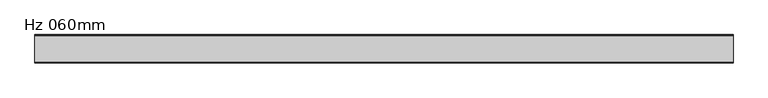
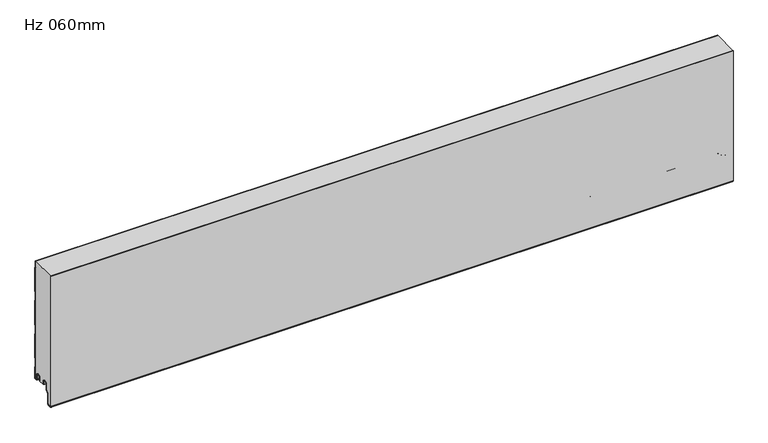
"""IFC4 building model written with IfcOpenShell, lengths in millimetres: plate geometry, KIP-MEX-KSS-1067-R19-CP-Hz-OP_SL : Hz 060mm."""

from ifc_helpers import new_model, si_unit, point, frame, frame_2d, origin, place, context, project, spatial, polyline, circle_curve, trimmed, segment, composite_curve, outline, extrude, source, transform, mapped, element, save
from ifc_brep_helpers import plane_surface, cylinder_surface, revolved_surface, advanced_brep


def hz_060mm_f28033a6(model_context):
    return source(origin(), model_context, "Body", "SolidModel", [
        advanced_brep(
        [(-740.0, -17.0015159, 2.0313088), (-740.0, -18.0015191, 1.0313116), (-740.0, -19.0015105, 2.0313088), (-740.0, -19.0015105, 6.0315125), (-740.0, -18.0015159, 6.0315125), (-740.0, -18.0015159, 8.7237223), (-740.0, -14.7015202, 12.023718), (-740.0, -10.301529, 12.023718), (-740.0, -7.0015335, 8.7237225), (-740.0, -7.0015335, -1.6962564), (-740.0, -5.2315393, -3.4662506), (-740.0, -0.9999916, -3.4662506), (-740.0, -0.9999916, 21.034026), (-740.0, -2.2002307, 22.4196686), (-740.0, -2.2002307, 41.7948349), (-740.0, -1.0, 43.1804679), (-740.0, -1.0, 97.2338833), (-740.0, -2.2002307, 98.6195162), (-740.0, -2.2002307, 117.9946825), (-740.0, -1.0, 119.3803155), (-740.0, -1.0, 173.4337309), (-740.0, -2.2002307, 174.8193638), (-740.0, -2.2002307, 194.1945301), (-740.0, -1.0, 195.5801631), (-740.0, -1.0, 249.6335785), (-740.0, -2.2002307, 251.0192114), (-740.0, -2.2002307, 266.0), (-740.0, -1.2002307, 266.0), (-740.0, -1.2002307, 251.3920919), (-740.0, -0.3417885, 250.4010442), (-740.0, 0.0, 249.4844273), (-740.0, 0.0, 195.7293142), (-740.0, -0.3417885, 194.8126973), (-740.0, -1.2002307, 193.8216497), (-740.0, -1.2002307, 175.1922443), (-740.0, -0.3417885, 174.2011966), (-740.0, 0.0, 173.2845797), (-740.0, 0.0, 119.5294666), (-740.0, -0.3417885, 118.6128497), (-740.0, -1.2002307, 117.6218021), (-740.0, -1.2002307, 98.9923967), (-740.0, -0.3417885, 98.001349), (-740.0, 0.0, 97.0847321), (-740.0, 0.0, 43.329619), (-740.0, -0.3417885, 42.4130021), (-740.0, -1.2002307, 41.4219545), (-740.0, -1.2002307, 22.7925491), (-740.0, -0.3417885, 21.8015014), (-740.0, 0.0, 20.8847931), (-740.0, 8.4e-06, -3.0662545), (-740.0, -1.3999878, -4.4662506), (-740.0, -5.2315393, -4.4662506), (-740.0, -8.0015335, -1.6962564), (-740.0, -8.0015335, 8.7237225), (-740.0, -10.301529, 11.023718), (-740.0, -14.7015202, 11.023718), (-740.0, -17.0015159, 8.7237223), (740.0, -17.0015159, 2.0313088), (740.0, -17.0015159, 8.7237223), (740.0, -14.7015202, 11.023718), (740.0, -10.301529, 11.023718), (740.0, -8.0015335, 8.7237225), (740.0, -8.0015335, -1.6962564), (740.0, -5.2315393, -4.4662506), (740.0, -1.3999878, -4.4662506), (740.0, 8.4e-06, -3.0662545), (740.0, 8.4e-06, 20.8848845), (740.0, -0.3417885, 21.8015014), (740.0, -1.2002307, 22.7925491), (740.0, -1.2002307, 41.4219545), (740.0, -0.3417885, 42.4130021), (740.0, 0.0, 43.329619), (740.0, 0.0, 97.0847321), (740.0, -0.3417885, 98.001349), (740.0, -1.2002307, 98.9923967), (740.0, -1.2002307, 117.6218021), (740.0, -0.3417885, 118.6128497), (740.0, 0.0, 119.5294666), (740.0, 0.0, 173.2845797), (740.0, -0.3417885, 174.2011966), (740.0, -1.2002307, 175.1922443), (740.0, -1.2002307, 193.8216497), (740.0, -0.3417885, 194.8126973), (740.0, 0.0, 195.7293142), (740.0, 0.0, 249.4844273), (740.0, -0.3417885, 250.4010442), (740.0, -1.2002307, 251.3920919), (740.0, -1.2002307, 266.0), (740.0, -2.2002307, 266.0), (740.0, -2.2002307, 251.0192114), (740.0, -1.0, 249.6335785), (740.0, -1.0, 195.5801631), (740.0, -2.2002307, 194.1945301), (740.0, -2.2002307, 174.8193638), (740.0, -1.0, 173.4337309), (740.0, -1.0, 119.3803155), (740.0, -2.2002307, 117.9946825), (740.0, -2.2002307, 98.6195162), (740.0, -1.0, 97.2338833), (740.0, -1.0, 43.1804679), (740.0, -2.2002307, 41.7948349), (740.0, -2.2002307, 22.4196686), (740.0, -0.9999916, 21.034026), (740.0, -0.9999916, -3.4662506), (740.0, -5.2315393, -3.4662506), (740.0, -7.0015335, -1.6962564), (740.0, -7.0015335, 8.7237225), (740.0, -10.301529, 12.023718), (740.0, -14.7015202, 12.023718), (740.0, -18.0015159, 8.7237223), (740.0, -18.0015159, 6.0315125), (740.0, -19.0015105, 6.0315125), (740.0, -19.0015105, 2.0313088), (740.0, -18.0015192, 1.0313116)],
        [
            (0, 1, circle_curve(frame((-740.0, -18.0015132, 2.0313088), z_axis=(-1.0, 0.0, 0.0), x_axis=(0.0, 0.0, 1.0)), 0.9999973)),
            (1, 2, circle_curve(frame((-740.0, -18.0015133, 2.0313088), z_axis=(-1.0, 0.0, 0.0), x_axis=(0.0, 0.0, 1.0)), 0.9999972)),
            (2, 3),
            (3, 4),
            (4, 5),
            (5, 6, circle_curve(frame((-740.0, -14.7015202, 8.7237223), z_axis=(-1.0, 0.0, 0.0), x_axis=(0.0, 0.0, 1.0)), 3.2999957)),
            (6, 7),
            (7, 8, circle_curve(frame((-740.0, -10.301529, 8.7237225), z_axis=(-1.0, 0.0, 0.0), x_axis=(0.0, 0.0, 1.0)), 3.2999955)),
            (8, 9),
            (9, 10, circle_curve(frame((-740.0, -5.2315393, -1.6962564), z_axis=(1.0, 0.0, 0.0), x_axis=(0.0, 0.0, 1.0)), 1.7699942)),
            (10, 11),
            (11, 12),
            (12, 13),
            (13, 14),
            (14, 15),
            (15, 16),
            (16, 17),
            (17, 18),
            (18, 19),
            (19, 20),
            (20, 21),
            (21, 22),
            (22, 23),
            (23, 24),
            (24, 25),
            (25, 26),
            (26, 27),
            (27, 28),
            (28, 29),
            (29, 30, circle_curve(frame((-740.0, -1.3999972, 249.4844273), z_axis=(-1.0, 0.0, 0.0), x_axis=(0.0, 0.0, 1.0)), 1.3999972)),
            (30, 31),
            (31, 32, circle_curve(frame((-740.0, -1.3999972, 195.7293142), z_axis=(-1.0, 0.0, 0.0), x_axis=(0.0, 0.0, 1.0)), 1.3999972)),
            (32, 33),
            (33, 34),
            (34, 35),
            (35, 36, circle_curve(frame((-740.0, -1.3999972, 173.2845797), z_axis=(-1.0, 0.0, 0.0), x_axis=(0.0, 0.0, 1.0)), 1.3999972)),
            (36, 37),
            (37, 38, circle_curve(frame((-740.0, -1.3999972, 119.5294666), z_axis=(-1.0, 0.0, 0.0), x_axis=(0.0, 0.0, 1.0)), 1.3999972)),
            (38, 39),
            (39, 40),
            (40, 41),
            (41, 42, circle_curve(frame((-740.0, -1.3999972, 97.0847321), z_axis=(-1.0, 0.0, 0.0), x_axis=(0.0, 0.0, 1.0)), 1.3999972)),
            (42, 43),
            (43, 44, circle_curve(frame((-740.0, -1.3999972, 43.329619), z_axis=(-1.0, 0.0, 0.0), x_axis=(0.0, 0.0, 1.0)), 1.3999972)),
            (44, 45),
            (45, 46),
            (46, 47),
            (47, 48, circle_curve(frame((-740.0, -1.3999972, 20.8848845), z_axis=(-1.0, 0.0, 0.0), x_axis=(0.0, 0.0, 1.0)), 1.3999972)),
            (48, 49),
            (49, 50, circle_curve(frame((-740.0, -1.3999878, -3.0662545), z_axis=(-1.0, 0.0, 0.0), x_axis=(0.0, 0.0, 1.0)), 1.3999962)),
            (50, 51),
            (51, 52, circle_curve(frame((-740.0, -5.2315393, -1.6962564), z_axis=(-1.0, 0.0, 0.0), x_axis=(0.0, 0.0, 1.0)), 2.7699942)),
            (52, 53),
            (53, 54, circle_curve(frame((-740.0, -10.301529, 8.7237225), z_axis=(1.0, 0.0, 0.0), x_axis=(0.0, 0.0, 1.0)), 2.2999955)),
            (54, 55),
            (55, 56, circle_curve(frame((-740.0, -14.7015202, 8.7237223), z_axis=(1.0, 0.0, 0.0), x_axis=(0.0, 0.0, 1.0)), 2.2999957)),
            (56, 0),
            (57, 58),
            (58, 59, circle_curve(frame((740.0, -14.7015202, 8.7237223), z_axis=(-1.0, 0.0, 0.0), x_axis=(0.0, 0.0, 1.0)), 2.2999957)),
            (59, 60),
            (60, 61, circle_curve(frame((740.0, -10.301529, 8.7237225), z_axis=(-1.0, 0.0, 0.0), x_axis=(0.0, 0.0, 1.0)), 2.2999955)),
            (61, 62),
            (62, 63, circle_curve(frame((740.0, -5.2315393, -1.6962564), z_axis=(1.0, 0.0, 0.0), x_axis=(0.0, 0.0, 1.0)), 2.7699942)),
            (63, 64),
            (64, 65, circle_curve(frame((740.0, -1.3999878, -3.0662545), z_axis=(1.0, 0.0, 0.0), x_axis=(0.0, 0.0, 1.0)), 1.3999962)),
            (65, 66),
            (66, 67, circle_curve(frame((740.0, -1.3999972, 20.8848845), z_axis=(1.0, 0.0, 0.0), x_axis=(0.0, 0.0, 1.0)), 1.3999972)),
            (67, 68),
            (68, 69),
            (69, 70),
            (70, 71, circle_curve(frame((740.0, -1.3999972, 43.329619), z_axis=(1.0, 0.0, 0.0), x_axis=(0.0, 0.0, 1.0)), 1.3999972)),
            (71, 72),
            (72, 73, circle_curve(frame((740.0, -1.3999972, 97.0847321), z_axis=(1.0, 0.0, 0.0), x_axis=(0.0, 0.0, 1.0)), 1.3999972)),
            (73, 74),
            (74, 75),
            (75, 76),
            (76, 77, circle_curve(frame((740.0, -1.3999972, 119.5294666), z_axis=(1.0, 0.0, 0.0), x_axis=(0.0, 0.0, 1.0)), 1.3999972)),
            (77, 78),
            (78, 79, circle_curve(frame((740.0, -1.3999972, 173.2845797), z_axis=(1.0, 0.0, 0.0), x_axis=(0.0, 0.0, 1.0)), 1.3999972)),
            (79, 80),
            (80, 81),
            (81, 82),
            (82, 83, circle_curve(frame((740.0, -1.3999972, 195.7293142), z_axis=(1.0, 0.0, 0.0), x_axis=(0.0, 0.0, 1.0)), 1.3999972)),
            (83, 84),
            (84, 85, circle_curve(frame((740.0, -1.3999972, 249.4844273), z_axis=(1.0, 0.0, 0.0), x_axis=(0.0, 0.0, 1.0)), 1.3999972)),
            (85, 86),
            (86, 87),
            (87, 88),
            (88, 89),
            (89, 90),
            (90, 91),
            (91, 92),
            (92, 93),
            (93, 94),
            (94, 95),
            (95, 96),
            (96, 97),
            (97, 98),
            (98, 99),
            (99, 100),
            (100, 101),
            (101, 102),
            (102, 103),
            (103, 104),
            (104, 105, circle_curve(frame((740.0, -5.2315393, -1.6962564), z_axis=(-1.0, 0.0, 0.0), x_axis=(0.0, 0.0, 1.0)), 1.7699942)),
            (105, 106),
            (106, 107, circle_curve(frame((740.0, -10.301529, 8.7237225), z_axis=(1.0, 0.0, 0.0), x_axis=(0.0, 0.0, 1.0)), 3.2999955)),
            (107, 108),
            (108, 109, circle_curve(frame((740.0, -14.7015202, 8.7237223), z_axis=(1.0, 0.0, 0.0), x_axis=(0.0, 0.0, 1.0)), 3.2999957)),
            (109, 110),
            (110, 111),
            (111, 112),
            (112, 113, circle_curve(frame((740.0, -18.0015133, 2.0313088), z_axis=(1.0, 0.0, 0.0), x_axis=(0.0, 0.0, 1.0)), 0.9999972)),
            (113, 57, circle_curve(frame((740.0, -18.0015132, 2.0313088), z_axis=(1.0, 0.0, 0.0), x_axis=(0.0, 0.0, 1.0)), 0.9999973)),
            (56, 58),
            (57, 0),
            (55, 59),
            (54, 60),
            (53, 61),
            (52, 62),
            (51, 63),
            (50, 64),
            (49, 65),
            (48, 66),
            (47, 67),
            (46, 68),
            (45, 69),
            (44, 70),
            (43, 71),
            (42, 72),
            (41, 73),
            (40, 74),
            (39, 75),
            (38, 76),
            (37, 77),
            (36, 78),
            (35, 79),
            (34, 80),
            (33, 81),
            (32, 82),
            (31, 83),
            (30, 84),
            (29, 85),
            (28, 86),
            (27, 87),
            (88, 26),
            (25, 89),
            (24, 90),
            (23, 91),
            (22, 92),
            (21, 93),
            (20, 94),
            (19, 95),
            (18, 96),
            (17, 97),
            (16, 98),
            (15, 99),
            (14, 100),
            (13, 101),
            (12, 102),
            (11, 103),
            (10, 104),
            (9, 105),
            (8, 106),
            (7, 107),
            (6, 108),
            (5, 109),
            (4, 110),
            (3, 111),
            (2, 112),
            (1, 113),
        ],
        [
            plane_surface(frame((-740.0, 0.0, 533.4), z_axis=(-1.0, 0.0, 0.0), x_axis=(0.0, 1.0, 0.0))),
            plane_surface(frame((740.0, 0.0, 533.4), z_axis=(1.0, 0.0, 0.0), x_axis=(0.0, 1.0, 0.0))),
            plane_surface(frame((-740.0, -17.0015159, 2.0313088), z_axis=(0.0, 1.0, 0.0), x_axis=(1.0, 0.0, 0.0))),
            revolved_surface(polyline([(740.0, -14.7015202, 11.023718), (-740.0, -14.7015202, 11.023718)]), (-740.0, -14.7015202, 8.7237223), (1.0, 0.0, 0.0)),
            plane_surface(frame((-740.0, -14.7015202, 11.023718), z_axis=(0.0, 0.0, -1.0), x_axis=(1.0, 0.0, 0.0))),
            revolved_surface(polyline([(740.0, -10.301529, 11.023717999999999), (-740.0, -10.301529, 11.023717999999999)]), (-740.0, -10.301529, 8.7237225), (1.0, 0.0, 0.0)),
            plane_surface(frame((-740.0, -8.0015335, 8.7237225), z_axis=(0.0, -1.0, 0.0), x_axis=(1.0, 0.0, 0.0))),
            cylinder_surface(frame((-740.0, -5.2315393, -1.6962564), z_axis=(-1.0, 0.0, 0.0), x_axis=(0.0, 0.0, 1.0)), 2.7699942),
            plane_surface(frame((-740.0, -5.2315393, -4.4662506), z_axis=(0.0, 0.0, -1.0), x_axis=(1.0, 0.0, 0.0))),
            cylinder_surface(frame((-740.0, -1.3999878, -3.0662545), z_axis=(-1.0, 0.0, 0.0), x_axis=(0.0, 0.0, 1.0)), 1.3999962),
            plane_surface(frame((-740.0, 8.4e-06, -3.0662545), z_axis=(0.0, 1.0, 0.0), x_axis=(1.0, 0.0, 0.0))),
            cylinder_surface(frame((-740.0, -1.3999972, 20.8848845), z_axis=(-1.0, 0.0, 0.0), x_axis=(0.0, 0.0, 1.0)), 1.3999972),
            plane_surface(frame((-740.0, -0.3417885, 21.8015014), z_axis=(0.0, 0.755864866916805, 0.6547276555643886), x_axis=(1.0, 0.0, 0.0))),
            plane_surface(frame((-740.0, -1.2002307, 32.1072518), z_axis=(0.0, 1.0, 0.0), x_axis=(1.0, 0.0, 0.0))),
            plane_surface(frame((-740.0, -1.2002307, 41.4219545), z_axis=(0.0, 0.755864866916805, -0.6547276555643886), x_axis=(1.0, 0.0, 0.0))),
            cylinder_surface(frame((-740.0, -1.3999972, 43.329619), z_axis=(-1.0, 0.0, 0.0), x_axis=(0.0, 0.0, 1.0)), 1.3999972),
            plane_surface(frame((-740.0, 0.0, 43.329619), z_axis=(0.0, 1.0, 0.0), x_axis=(1.0, 0.0, 0.0))),
            cylinder_surface(frame((-740.0, -1.3999972, 97.0847321), z_axis=(-1.0, 0.0, 0.0), x_axis=(0.0, 0.0, 1.0)), 1.3999972),
            plane_surface(frame((-740.0, -0.3417885, 98.001349), z_axis=(0.0, 0.755864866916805, 0.6547276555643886), x_axis=(1.0, 0.0, 0.0))),
            plane_surface(frame((-740.0, -1.2002307, 108.3070994), z_axis=(0.0, 1.0, 0.0), x_axis=(1.0, 0.0, 0.0))),
            plane_surface(frame((-740.0, -1.2002307, 117.6218021), z_axis=(0.0, 0.755864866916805, -0.6547276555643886), x_axis=(1.0, 0.0, 0.0))),
            cylinder_surface(frame((-740.0, -1.3999972, 119.5294666), z_axis=(-1.0, 0.0, 0.0), x_axis=(0.0, 0.0, 1.0)), 1.3999972),
            plane_surface(frame((-740.0, 0.0, 119.5294666), z_axis=(0.0, 1.0, 0.0), x_axis=(1.0, 0.0, 0.0))),
            cylinder_surface(frame((-740.0, -1.3999972, 173.2845797), z_axis=(-1.0, 0.0, 0.0), x_axis=(0.0, 0.0, 1.0)), 1.3999972),
            plane_surface(frame((-740.0, -0.3417885, 174.2011966), z_axis=(0.0, 0.755864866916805, 0.6547276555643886), x_axis=(1.0, 0.0, 0.0))),
            plane_surface(frame((-740.0, -1.2002307, 184.506947), z_axis=(0.0, 1.0, 0.0), x_axis=(1.0, 0.0, 0.0))),
            plane_surface(frame((-740.0, -1.2002307, 193.8216497), z_axis=(0.0, 0.755864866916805, -0.6547276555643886), x_axis=(1.0, 0.0, 0.0))),
            cylinder_surface(frame((-740.0, -1.3999972, 195.7293142), z_axis=(-1.0, 0.0, 0.0), x_axis=(0.0, 0.0, 1.0)), 1.3999972),
            plane_surface(frame((-740.0, 0.0, 195.7293142), z_axis=(0.0, 1.0, 0.0), x_axis=(1.0, 0.0, 0.0))),
            cylinder_surface(frame((-740.0, -1.3999972, 249.4844273), z_axis=(-1.0, 0.0, 0.0), x_axis=(0.0, 0.0, 1.0)), 1.3999972),
            plane_surface(frame((-740.0, -0.3417885, 250.4010442), z_axis=(0.0, 0.755864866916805, 0.6547276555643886), x_axis=(1.0, 0.0, 0.0))),
            plane_surface(frame((-740.0, -1.2002307, 260.7067946), z_axis=(0.0, 1.0, 0.0), x_axis=(1.0, 0.0, 0.0))),
            plane_surface(frame((-740.0, -2.2002307, 270.3943777), z_axis=(0.0, -1.0, 0.0), x_axis=(1.0, 0.0, 0.0))),
            plane_surface(frame((-740.0, -2.2002307, 251.0192114), z_axis=(0.0, -0.755864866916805, -0.6547276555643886), x_axis=(1.0, 0.0, 0.0))),
            plane_surface(frame((-740.0, -1.0, 249.6335785), z_axis=(0.0, -1.0, 0.0), x_axis=(1.0, 0.0, 0.0))),
            plane_surface(frame((-740.0, -1.0, 195.5801631), z_axis=(0.0, -0.755864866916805, 0.6547276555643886), x_axis=(1.0, 0.0, 0.0))),
            plane_surface(frame((-740.0, -2.2002307, 194.1945301), z_axis=(0.0, -1.0, 0.0), x_axis=(1.0, 0.0, 0.0))),
            plane_surface(frame((-740.0, -2.2002307, 174.8193638), z_axis=(0.0, -0.755864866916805, -0.6547276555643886), x_axis=(1.0, 0.0, 0.0))),
            plane_surface(frame((-740.0, -1.0, 173.4337309), z_axis=(0.0, -1.0, 0.0), x_axis=(1.0, 0.0, 0.0))),
            plane_surface(frame((-740.0, -1.0, 119.3803155), z_axis=(0.0, -0.755864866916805, 0.6547276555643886), x_axis=(1.0, 0.0, 0.0))),
            plane_surface(frame((-740.0, -2.2002307, 117.9946825), z_axis=(0.0, -1.0, 0.0), x_axis=(1.0, 0.0, 0.0))),
            plane_surface(frame((-740.0, -2.2002307, 98.6195162), z_axis=(0.0, -0.755864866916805, -0.6547276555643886), x_axis=(1.0, 0.0, 0.0))),
            plane_surface(frame((-740.0, -1.0, 97.2338833), z_axis=(0.0, -1.0, 0.0), x_axis=(1.0, 0.0, 0.0))),
            plane_surface(frame((-740.0, -1.0, 43.1804679), z_axis=(0.0, -0.755864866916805, 0.6547276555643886), x_axis=(1.0, 0.0, 0.0))),
            plane_surface(frame((-740.0, -2.2002307, 41.7948349), z_axis=(0.0, -1.0, 0.0), x_axis=(1.0, 0.0, 0.0))),
            plane_surface(frame((-740.0, -2.2002307, 22.4196686), z_axis=(0.0, -0.755864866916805, -0.6547276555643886), x_axis=(1.0, 0.0, 0.0))),
            plane_surface(frame((-740.0, -0.9999916, 21.034026), z_axis=(0.0, -1.0, 0.0), x_axis=(1.0, 0.0, 0.0))),
            plane_surface(frame((-740.0, -0.9999916, -3.4662506), z_axis=(0.0, 0.0, 1.0), x_axis=(1.0, 0.0, 0.0))),
            revolved_surface(polyline([(740.0, -5.2315393, 0.07373779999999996), (-740.0, -5.2315393, 0.07373779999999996)]), (-740.0, -5.2315393, -1.6962564), (1.0, 0.0, 0.0)),
            plane_surface(frame((-740.0, -7.0015335, -1.6962564), z_axis=(0.0, 1.0, 0.0), x_axis=(1.0, 0.0, 0.0))),
            cylinder_surface(frame((-740.0, -10.301529, 8.7237225), z_axis=(-1.0, 0.0, 0.0), x_axis=(0.0, 0.0, 1.0)), 3.2999955),
            plane_surface(frame((-740.0, -10.301529, 12.023718), z_axis=(0.0, 0.0, 1.0), x_axis=(1.0, 0.0, 0.0))),
            cylinder_surface(frame((-740.0, -14.7015202, 8.7237223), z_axis=(-1.0, 0.0, 0.0), x_axis=(0.0, 0.0, 1.0)), 3.2999957),
            plane_surface(frame((-740.0, -18.0015159, 8.7237223), z_axis=(0.0, -1.0, 0.0), x_axis=(1.0, 0.0, 0.0))),
            plane_surface(frame((-740.0, -18.0015159, 6.0315125), z_axis=(0.0, 0.0, 1.0), x_axis=(1.0, 0.0, 0.0))),
            plane_surface(frame((-740.0, -19.0015105, 6.0315125), z_axis=(0.0, -1.0, 0.0), x_axis=(1.0, 0.0, 0.0))),
            cylinder_surface(frame((-740.0, -18.0015133, 2.0313088), z_axis=(-1.0, 0.0, 0.0), x_axis=(0.0, 0.0, 1.0)), 0.9999972),
            cylinder_surface(frame((-740.0, -18.0015132, 2.0313088), z_axis=(-1.0, 0.0, 0.0), x_axis=(0.0, 0.0, 1.0)), 0.9999973),
            plane_surface(frame((740.0, 10.0, 266.0), z_axis=(0.0, 0.0, 1.0), x_axis=(-1.0, 0.0, 0.0))),
        ],
        [
            (0, [[1, 2, 3, 4, 5, 6, 7, 8, 9, 10, 11, 12, 13, 14, 15, 16, 17, 18, 19, 20, 21, 22, 23, 24, 25, 26, 27, 28, 29, 30, 31, 32, 33, 34, 35, 36, 37, 38, 39, 40, 41, 42, 43, 44, 45, 46, 47, 48, 49, 50, 51, 52, 53, 54, 55, 56, 57]]),
            (1, [[58, 59, 60, 61, 62, 63, 64, 65, 66, 67, 68, 69, 70, 71, 72, 73, 74, 75, 76, 77, 78, 79, 80, 81, 82, 83, 84, 85, 86, 87, 88, 89, 90, 91, 92, 93, 94, 95, 96, 97, 98, 99, 100, 101, 102, 103, 104, 105, 106, 107, 108, 109, 110, 111, 112, 113, 114]]),
            (2, [[115, -58, 116, -57]]),
            (3, [[117, -59, -115, -56]]),
            (4, [[118, -60, -117, -55]]),
            (5, [[119, -61, -118, -54]]),
            (6, [[120, -62, -119, -53]]),
            (7, [[121, -63, -120, -52]]),
            (8, [[122, -64, -121, -51]]),
            (9, [[123, -65, -122, -50]]),
            (10, [[124, -66, -123, -49]]),
            (11, [[125, -67, -124, -48]]),
            (12, [[126, -68, -125, -47]]),
            (13, [[127, -69, -126, -46]]),
            (14, [[128, -70, -127, -45]]),
            (15, [[129, -71, -128, -44]]),
            (16, [[130, -72, -129, -43]]),
            (17, [[131, -73, -130, -42]]),
            (18, [[132, -74, -131, -41]]),
            (19, [[133, -75, -132, -40]]),
            (20, [[134, -76, -133, -39]]),
            (21, [[135, -77, -134, -38]]),
            (22, [[136, -78, -135, -37]]),
            (23, [[137, -79, -136, -36]]),
            (24, [[138, -80, -137, -35]]),
            (25, [[139, -81, -138, -34]]),
            (26, [[140, -82, -139, -33]]),
            (27, [[141, -83, -140, -32]]),
            (28, [[142, -84, -141, -31]]),
            (29, [[143, -85, -142, -30]]),
            (30, [[144, -86, -143, -29]]),
            (31, [[-28, 145, -87, -144]]),
            (32, [[-89, 146, -26, 147]]),
            (33, [[148, -90, -147, -25]]),
            (34, [[149, -91, -148, -24]]),
            (35, [[150, -92, -149, -23]]),
            (36, [[151, -93, -150, -22]]),
            (37, [[152, -94, -151, -21]]),
            (38, [[153, -95, -152, -20]]),
            (39, [[154, -96, -153, -19]]),
            (40, [[155, -97, -154, -18]]),
            (41, [[156, -98, -155, -17]]),
            (42, [[157, -99, -156, -16]]),
            (43, [[158, -100, -157, -15]]),
            (44, [[159, -101, -158, -14]]),
            (45, [[160, -102, -159, -13]]),
            (46, [[161, -103, -160, -12]]),
            (47, [[162, -104, -161, -11]]),
            (48, [[163, -105, -162, -10]]),
            (49, [[164, -106, -163, -9]]),
            (50, [[165, -107, -164, -8]]),
            (51, [[166, -108, -165, -7]]),
            (52, [[167, -109, -166, -6]]),
            (53, [[168, -110, -167, -5]]),
            (54, [[169, -111, -168, -4]]),
            (55, [[170, -112, -169, -3]]),
            (56, [[171, -113, -170, -2]]),
            (57, [[-116, -114, -171, -1]]),
            (58, [[-146, -88, -145, -27]]),
        ],
    ),
        extrude(outline(composite_curve([segment(trimmed(circle_curve(frame_2d((-56.4297607, -32.4521176)), 3.5702393), [point((-56.1184903, -36.008762))], [point((-60.0, -32.4521176))], False, "CARTESIAN"), True, "CONTINUOUS"), segment(polyline([(-60.0, -32.4521176), (-60.0, 266.0), (-58.9993606, 266.0), (-58.9993606, -32.509446)]), True, "CONTINUOUS"), segment(trimmed(circle_curve(frame_2d((-56.4297607, -32.4521176)), 2.5702393), [point((-58.9993606, -32.509446))], [point((-56.2056751, -35.0125699))], True, "CARTESIAN"), True, "CONTINUOUS"), segment(polyline([(-56.2056751, -35.0125699), (-51.2238542, -34.5765709)]), True, "CONTINUOUS"), segment(trimmed(circle_curve(frame_2d((-51.7052448, -31.9198392)), 2.6999926), [point((-51.2238542, -34.5765709))], [point((-49.0052522, -31.9198392))], True, "CARTESIAN"), True, "CONTINUOUS"), segment(polyline([(-49.0052522, -31.9198392), (-49.0052522, -9.8247096), (-43.5031811, -4.3226385)]), True, "CONTINUOUS"), segment(trimmed(circle_curve(frame_2d((-44.7052588, -3.1205608)), 1.6999946), [point((-43.5031811, -4.3226385))], [point((-43.0052642, -3.1205608))], True, "CARTESIAN"), True, "CONTINUOUS"), segment(polyline([(-43.0052642, -3.1205608), (-43.0052642, 8.6903283)]), True, "CONTINUOUS"), segment(trimmed(circle_curve(frame_2d((-39.6552689, 8.6903283)), 3.3499953), [point((-43.0052642, 8.6903283))], [point((-39.6552689, 12.0403236))], False, "CARTESIAN"), True, "CONTINUOUS"), segment(polyline([(-39.6552689, 12.0403236), (-35.2552777, 12.0403236)]), True, "CONTINUOUS"), segment(trimmed(circle_curve(frame_2d((-35.2552777, 8.6903283)), 3.3499953), [point((-35.2552777, 12.0403236))], [point((-31.9052824, 8.6903283))], False, "CARTESIAN"), True, "CONTINUOUS"), segment(polyline([(-31.9052824, 8.6903283), (-31.9052824, 5.9912173), (-30.5068035, 5.9912173), (-30.5068035, 2.2328239)]), True, "CONTINUOUS"), segment(trimmed(circle_curve(frame_2d((-31.7068002, 2.2313092)), 1.1999976), [point((-30.5068035, 2.2328239))], [point((-31.6762782, 1.0316999))], False, "CARTESIAN"), True, "CONTINUOUS"), segment(trimmed(circle_curve(frame_2d((-31.7068002, 2.2313092)), 1.1999976), [point((-31.6762782, 1.0316999))], [point((-32.9052824, 2.1710221))], False, "CARTESIAN"), True, "CONTINUOUS"), segment(polyline([(-32.9052824, 2.1710221), (-32.9052824, 8.6903283)]), True, "CONTINUOUS"), segment(trimmed(circle_curve(frame_2d((-35.2552777, 8.6903283)), 2.3499953), [point((-32.9052824, 8.6903283))], [point((-35.2552777, 11.0403236))], True, "CARTESIAN"), True, "CONTINUOUS"), segment(polyline([(-35.2552777, 11.0403236), (-39.6552689, 11.0403236)]), True, "CONTINUOUS"), segment(trimmed(circle_curve(frame_2d((-39.6552689, 8.6903283)), 2.3499953), [point((-39.6552689, 11.0403236))], [point((-42.0052642, 8.6903283))], True, "CARTESIAN"), True, "CONTINUOUS"), segment(polyline([(-42.0052642, 8.6903283), (-42.0052642, -3.1205608)]), True, "CONTINUOUS"), segment(trimmed(circle_curve(frame_2d((-44.7052588, -3.1205608)), 2.6999946), [point((-42.0052642, -3.1205608))], [point((-42.7960743, -5.0297453))], False, "CARTESIAN"), True, "CONTINUOUS"), segment(polyline([(-42.7960743, -5.0297453), (-47.6244918, -9.8581627)]), True, "CONTINUOUS"), segment(trimmed(circle_curve(frame_2d((-46.7052548, -10.7773997)), 1.2999974), [point((-47.6244918, -9.8581627))], [point((-48.0052522, -10.7773997))], True, "CARTESIAN"), True, "CONTINUOUS"), segment(polyline([(-48.0052522, -10.7773997), (-48.0052522, -31.9198392)]), True, "CONTINUOUS"), segment(trimmed(circle_curve(frame_2d((-51.7052448, -31.9198392)), 3.6999926), [point((-48.0052522, -31.9198392))], [point((-51.0944437, -35.5690675))], False, "CARTESIAN"), True, "CONTINUOUS"), segment(polyline([(-51.0944437, -35.5690675), (-56.1184903, -36.008762)]), True, "CONTINUOUS")], self_intersect=False)), frame((-740.0, 0.0, 0.0), z_axis=(1.0, 0.0, 0.0), x_axis=(0.0, 1.0, 0.0)), (0.0, 0.0, 1.0), 1480.0),
        advanced_brep(
        [(-740.0, -31.670875, 1.0316999), (-740.0, -30.5014003, 2.2328239), (-740.0, -30.5014003, 5.9912173), (-740.0, -31.8998791, 5.9912173), (-740.0, -31.8998791, 8.6903283), (-740.0, -35.2498744, 12.0403236), (-740.0, -39.6498656, 12.0403236), (-740.0, -42.9998609, 8.6903283), (-740.0, -42.9998609, -3.1205608), (-740.0, -43.4977778, -4.3226385), (-740.0, -48.9998489, -9.8247096), (-740.0, -48.9998489, -31.9198392), (-740.0, -51.2184509, -34.5765709), (-740.0, -56.2002718, -35.0125699), (-740.0, -58.9945967, -32.4521176), (-740.0, -59.0, 266.0), (-740.0, -2.2002307, 266.0), (-740.0, -2.2002307, 251.0192115), (-740.0, -1.0, 249.6335785), (-740.0, -1.0, 195.5801631), (-740.0, -2.2002307, 194.1945302), (-740.0, -2.2002307, 174.8193639), (-740.0, -1.0, 173.4337309), (-740.0, -1.0, 119.3803155), (-740.0, -2.2002307, 117.9946826), (-740.0, -2.2002307, 98.6195163), (-740.0, -1.0, 97.2338833), (-740.0, -1.0, 43.1804679), (-740.0, -2.2002307, 41.794835), (-740.0, -2.2002307, 22.4196687), (-740.0, -0.9999916, 21.034026), (-740.0, -0.9999916, -3.4662506), (-740.0, -5.2315389, -3.4662506), (-740.0, -7.0015331, -1.6962564), (-740.0, -7.0015331, 8.7237222), (-740.0, -10.301529, 12.023718), (-740.0, -14.7015202, 12.023718), (-740.0, -18.0015159, 8.7237223), (-740.0, -18.0015159, 6.0315125), (-740.0, -19.0015105, 6.0315125), (-740.0, -19.0015105, 2.0313089), (-740.0, -18.0015192, 1.0313117), (-740.0, -19.0328308, 0.0), (-740.0, -30.6391751, 0.0), (740.0, -31.670875, 1.0316999), (740.0, -30.6391751, 0.0), (740.0, -19.0328308, 0.0), (740.0, -18.0015192, 1.0313117), (740.0, -19.0015105, 2.0313089), (740.0, -19.0015105, 6.0315125), (740.0, -18.0015159, 6.0315125), (740.0, -18.0015159, 8.7237223), (740.0, -14.7015202, 12.023718), (740.0, -10.301529, 12.023718), (740.0, -7.0015331, 8.7237222), (740.0, -7.0015331, -1.6962564), (740.0, -5.2315389, -3.4662506), (740.0, -0.9999916, -3.4662506), (740.0, -0.9999916, 21.034026), (740.0, -2.2002307, 22.4196687), (740.0, -2.2002307, 41.794835), (740.0, -1.0, 43.1804679), (740.0, -1.0, 97.2338833), (740.0, -2.2002307, 98.6195163), (740.0, -2.2002307, 117.9946826), (740.0, -1.0, 119.3803155), (740.0, -1.0, 173.4337309), (740.0, -2.2002307, 174.8193639), (740.0, -2.2002307, 194.1945302), (740.0, -1.0, 195.5801631), (740.0, -1.0, 249.6335785), (740.0, -2.2002307, 251.0192115), (740.0, -2.2002307, 266.0), (740.0, -59.0, 266.0), (740.0, -59.0, -32.4521176), (740.0, -56.2002718, -35.0125699), (740.0, -51.2184509, -34.5765709), (740.0, -48.9998489, -31.9198392), (740.0, -48.9998489, -9.8247096), (740.0, -43.4977778, -4.3226385), (740.0, -42.9998609, -3.1205608), (740.0, -42.9998609, 8.6903283), (740.0, -39.6498656, 12.0403236), (740.0, -35.2498744, 12.0403236), (740.0, -31.8998791, 8.6903283), (740.0, -31.8998791, 5.9912173), (740.0, -30.5014003, 5.9912173), (740.0, -30.5014003, 2.2328239)],
        [
            (0, 1, circle_curve(frame((-740.0, -31.7013969, 2.2313092), z_axis=(1.0, 0.0, 0.0), x_axis=(0.0, 0.0, -1.0)), 1.1999976)),
            (1, 2),
            (2, 3),
            (3, 4),
            (4, 5, circle_curve(frame((-740.0, -35.2498744, 8.6903283), z_axis=(1.0, 0.0, 0.0), x_axis=(0.0, 0.0, -1.0)), 3.3499953)),
            (5, 6),
            (6, 7, circle_curve(frame((-740.0, -39.6498656, 8.6903283), z_axis=(1.0, 0.0, 0.0), x_axis=(0.0, 0.0, -1.0)), 3.3499953)),
            (7, 8),
            (8, 9, circle_curve(frame((-740.0, -44.6998555, -3.1205608), z_axis=(-1.0, 0.0, 0.0), x_axis=(0.0, 0.0, -1.0)), 1.6999946)),
            (9, 10),
            (10, 11),
            (11, 12, circle_curve(frame((-740.0, -51.6998415, -31.9198392), z_axis=(-1.0, 0.0, 0.0), x_axis=(0.0, 0.0, -1.0)), 2.6999926)),
            (12, 13),
            (13, 14, circle_curve(frame((-740.0, -56.4243575, -32.4521176), z_axis=(-1.0, 0.0, 0.0), x_axis=(0.0, 0.0, -1.0)), 2.5702393)),
            (14, 15),
            (15, 16),
            (16, 17),
            (17, 18),
            (18, 19),
            (19, 20),
            (20, 21),
            (21, 22),
            (22, 23),
            (23, 24),
            (24, 25),
            (25, 26),
            (26, 27),
            (27, 28),
            (28, 29),
            (29, 30),
            (30, 31),
            (31, 32),
            (32, 33, circle_curve(frame((-740.0, -5.2315389, -1.6962564), z_axis=(-1.0, 0.0, 0.0), x_axis=(0.0, 0.0, -1.0)), 1.7699942)),
            (33, 34),
            (34, 35, circle_curve(frame((-740.0, -10.301529, 8.7237222), z_axis=(1.0, 0.0, 0.0), x_axis=(0.0, 0.0, -1.0)), 3.2999959)),
            (35, 36),
            (36, 37, circle_curve(frame((-740.0, -14.7015202, 8.7237223), z_axis=(1.0, 0.0, 0.0), x_axis=(0.0, 0.0, -1.0)), 3.2999957)),
            (37, 38),
            (38, 39),
            (39, 40),
            (40, 41, circle_curve(frame((-740.0, -18.0015133, 2.0313089), z_axis=(1.0, 0.0, 0.0), x_axis=(0.0, 0.0, -1.0)), 0.9999972)),
            (41, 42),
            (42, 43),
            (43, 0),
            (44, 45),
            (45, 46),
            (46, 47),
            (47, 48, circle_curve(frame((740.0, -18.0015133, 2.0313089), z_axis=(-1.0, 0.0, 0.0), x_axis=(0.0, 0.0, -1.0)), 0.9999972)),
            (48, 49),
            (49, 50),
            (50, 51),
            (51, 52, circle_curve(frame((740.0, -14.7015202, 8.7237223), z_axis=(-1.0, 0.0, 0.0), x_axis=(0.0, 0.0, -1.0)), 3.2999957)),
            (52, 53),
            (53, 54, circle_curve(frame((740.0, -10.301529, 8.7237222), z_axis=(-1.0, 0.0, 0.0), x_axis=(0.0, 0.0, -1.0)), 3.2999959)),
            (54, 55),
            (55, 56, circle_curve(frame((740.0, -5.2315389, -1.6962564), z_axis=(1.0, 0.0, 0.0), x_axis=(0.0, 0.0, -1.0)), 1.7699942)),
            (56, 57),
            (57, 58),
            (58, 59),
            (59, 60),
            (60, 61),
            (61, 62),
            (62, 63),
            (63, 64),
            (64, 65),
            (65, 66),
            (66, 67),
            (67, 68),
            (68, 69),
            (69, 70),
            (70, 71),
            (71, 72),
            (72, 73),
            (73, 74),
            (74, 75, circle_curve(frame((740.0, -56.4243575, -32.4521176), z_axis=(1.0, 0.0, 0.0), x_axis=(0.0, 0.0, -1.0)), 2.5702393)),
            (75, 76),
            (76, 77, circle_curve(frame((740.0, -51.6998415, -31.9198392), z_axis=(1.0, 0.0, 0.0), x_axis=(0.0, 0.0, -1.0)), 2.6999926)),
            (77, 78),
            (78, 79),
            (79, 80, circle_curve(frame((740.0, -44.6998555, -3.1205608), z_axis=(1.0, 0.0, 0.0), x_axis=(0.0, 0.0, -1.0)), 1.6999946)),
            (80, 81),
            (81, 82, circle_curve(frame((740.0, -39.6498656, 8.6903283), z_axis=(-1.0, 0.0, 0.0), x_axis=(0.0, 0.0, -1.0)), 3.3499953)),
            (82, 83),
            (83, 84, circle_curve(frame((740.0, -35.2498744, 8.6903283), z_axis=(-1.0, 0.0, 0.0), x_axis=(0.0, 0.0, -1.0)), 3.3499953)),
            (84, 85),
            (85, 86),
            (86, 87),
            (87, 44, circle_curve(frame((740.0, -31.7013969, 2.2313092), z_axis=(-1.0, 0.0, 0.0), x_axis=(0.0, 0.0, -1.0)), 1.1999976)),
            (41, 47),
            (46, 42),
            (40, 48),
            (39, 49),
            (38, 50),
            (37, 51),
            (36, 52),
            (35, 53),
            (34, 54),
            (33, 55),
            (32, 56),
            (31, 57),
            (30, 58),
            (29, 59),
            (28, 60),
            (27, 61),
            (26, 62),
            (25, 63),
            (24, 64),
            (23, 65),
            (22, 66),
            (21, 67),
            (20, 68),
            (19, 69),
            (18, 70),
            (17, 71),
            (16, 72),
            (15, 73),
            (43, 45),
            (44, 0),
            (14, 74),
            (13, 75),
            (12, 76),
            (11, 77),
            (10, 78),
            (9, 79),
            (8, 80),
            (7, 81),
            (6, 82),
            (5, 83),
            (4, 84),
            (3, 85),
            (2, 86),
            (1, 87),
        ],
        [
            plane_surface(frame((-740.0, -59.0, 533.4), z_axis=(-1.0, 0.0, 0.0), x_axis=(0.0, -1.0, 0.0))),
            plane_surface(frame((740.0, -59.0, 533.4), z_axis=(1.0, 0.0, 0.0), x_axis=(0.0, -1.0, 0.0))),
            plane_surface(frame((-740.0, -19.0328308, 0.0), z_axis=(0.0, 0.7071067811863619, -0.7071067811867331), x_axis=(1.0, 0.0, 0.0))),
            revolved_surface(polyline([(740.0, -18.0015133, 1.0313116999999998), (-740.0, -18.0015133, 1.0313116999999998)]), (-740.0, -18.0015133, 2.0313089), (1.0, 0.0, 0.0)),
            plane_surface(frame((-740.0, -19.0015105, 2.0313089), z_axis=(0.0, 1.0, 0.0), x_axis=(1.0, 0.0, 0.0))),
            plane_surface(frame((-740.0, -19.0015105, 6.0315125), z_axis=(0.0, 0.0, -1.0), x_axis=(1.0, 0.0, 0.0))),
            plane_surface(frame((-740.0, -18.0015159, 6.0315125), z_axis=(0.0, 1.0, 0.0), x_axis=(1.0, 0.0, 0.0))),
            revolved_surface(polyline([(740.0, -14.7015202, 5.4237266), (-740.0, -14.7015202, 5.4237266)]), (-740.0, -14.7015202, 8.7237223), (1.0, 0.0, 0.0)),
            plane_surface(frame((-740.0, -14.7015202, 12.023718), z_axis=(0.0, 0.0, -1.0), x_axis=(1.0, 0.0, 0.0))),
            revolved_surface(polyline([(740.0, -10.301529, 5.423726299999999), (-740.0, -10.301529, 5.423726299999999)]), (-740.0, -10.301529, 8.7237222), (1.0, 0.0, 0.0)),
            plane_surface(frame((-740.0, -7.0015331, 8.7237222), z_axis=(0.0, -1.0, 0.0), x_axis=(1.0, 0.0, 0.0))),
            cylinder_surface(frame((-740.0, -5.2315389, -1.6962564), z_axis=(-1.0, 0.0, 0.0), x_axis=(0.0, 0.0, -1.0)), 1.7699942),
            plane_surface(frame((-740.0, -5.2315389, -3.4662506), z_axis=(0.0, 0.0, -1.0), x_axis=(1.0, 0.0, 0.0))),
            plane_surface(frame((-740.0, -0.9999916, -3.4662506), z_axis=(0.0, 1.0, 0.0), x_axis=(1.0, 0.0, 0.0))),
            plane_surface(frame((-740.0, -0.9999916, 21.034026), z_axis=(0.0, 0.7558648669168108, 0.6547276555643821), x_axis=(1.0, 0.0, 0.0))),
            plane_surface(frame((-740.0, -2.2002307, 22.4196687), z_axis=(0.0, 1.0, 0.0), x_axis=(1.0, 0.0, 0.0))),
            plane_surface(frame((-740.0, -2.2002307, 41.794835), z_axis=(0.0, 0.7558648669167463, -0.6547276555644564), x_axis=(1.0, 0.0, 0.0))),
            plane_surface(frame((-740.0, -1.0, 43.1804679), z_axis=(0.0, 1.0, 0.0), x_axis=(1.0, 0.0, 0.0))),
            plane_surface(frame((-740.0, -1.0, 97.2338833), z_axis=(0.0, 0.7558648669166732, 0.6547276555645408), x_axis=(1.0, 0.0, 0.0))),
            plane_surface(frame((-740.0, -2.2002307, 98.6195163), z_axis=(0.0, 1.0, 0.0), x_axis=(1.0, 0.0, 0.0))),
            plane_surface(frame((-740.0, -2.2002307, 117.9946826), z_axis=(0.0, 0.7558648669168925, -0.6547276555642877), x_axis=(1.0, 0.0, 0.0))),
            plane_surface(frame((-740.0, -1.0, 119.3803155), z_axis=(0.0, 1.0, 0.0), x_axis=(1.0, 0.0, 0.0))),
            plane_surface(frame((-740.0, -1.0, 173.4337309), z_axis=(0.0, 0.7558648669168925, 0.6547276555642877), x_axis=(1.0, 0.0, 0.0))),
            plane_surface(frame((-740.0, -2.2002307, 174.8193639), z_axis=(0.0, 1.0, 0.0), x_axis=(1.0, 0.0, 0.0))),
            plane_surface(frame((-740.0, -2.2002307, 194.1945302), z_axis=(0.0, 0.7558648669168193, -0.6547276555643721), x_axis=(1.0, 0.0, 0.0))),
            plane_surface(frame((-740.0, -1.0, 195.5801631), z_axis=(0.0, 1.0, 0.0), x_axis=(1.0, 0.0, 0.0))),
            plane_surface(frame((-740.0, -1.0, 249.6335785), z_axis=(0.0, 0.7558648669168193, 0.6547276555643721), x_axis=(1.0, 0.0, 0.0))),
            plane_surface(frame((-740.0, -2.2002307, 251.0192115), z_axis=(0.0, 1.0, 0.0), x_axis=(1.0, 0.0, 0.0))),
            plane_surface(frame((740.0, 10.0, 266.0), z_axis=(0.0, 0.0, 1.0), x_axis=(-1.0, 0.0, 0.0))),
            plane_surface(frame((-740.0, -31.670875, 1.0316999), z_axis=(0.0, -0.7071067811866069, -0.7071067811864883), x_axis=(1.0, 0.0, 0.0))),
            plane_surface(frame((-740.0, -59.0, 1024.665622), z_axis=(0.0, -1.0, 0.0), x_axis=(1.0, 0.0, 0.0))),
            cylinder_surface(frame((-740.0, -56.4243575, -32.4521176), z_axis=(-1.0, 0.0, 0.0), x_axis=(0.0, 0.0, -1.0)), 2.5702393),
            plane_surface(frame((-740.0, -30.6391751, 0.0), z_axis=(0.0, 0.0, -1.0), x_axis=(1.0, 0.0, 0.0))),
            plane_surface(frame((-740.0, -56.2002718, -35.0125699), z_axis=(0.0, 0.08718474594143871, -0.9961921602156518), x_axis=(1.0, 0.0, 0.0))),
            cylinder_surface(frame((-740.0, -51.6998415, -31.9198392), z_axis=(-1.0, 0.0, 0.0), x_axis=(0.0, 0.0, -1.0)), 2.6999926),
            plane_surface(frame((-740.0, -48.9998489, -31.9198392), z_axis=(0.0, 1.0, 0.0), x_axis=(1.0, 0.0, 0.0))),
            plane_surface(frame((-740.0, -48.9998489, -9.8247096), z_axis=(0.0, 0.7071067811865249, -0.7071067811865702), x_axis=(1.0, 0.0, 0.0))),
            cylinder_surface(frame((-740.0, -44.6998555, -3.1205608), z_axis=(-1.0, 0.0, 0.0), x_axis=(0.0, 0.0, -1.0)), 1.6999946),
            plane_surface(frame((-740.0, -42.9998609, -3.1205608), z_axis=(0.0, 1.0, 0.0), x_axis=(1.0, 0.0, 0.0))),
            revolved_surface(polyline([(740.0, -39.6498656, 5.340332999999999), (-740.0, -39.6498656, 5.340332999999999)]), (-740.0, -39.6498656, 8.6903283), (1.0, 0.0, 0.0)),
            plane_surface(frame((-740.0, -39.6498656, 12.0403236), z_axis=(0.0, 0.0, -1.0), x_axis=(1.0, 0.0, 0.0))),
            revolved_surface(polyline([(740.0, -35.2498744, 5.340332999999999), (-740.0, -35.2498744, 5.340332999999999)]), (-740.0, -35.2498744, 8.6903283), (1.0, 0.0, 0.0)),
            plane_surface(frame((-740.0, -31.8998791, 8.6903283), z_axis=(0.0, -1.0, 0.0), x_axis=(1.0, 0.0, 0.0))),
            plane_surface(frame((-740.0, -31.8998791, 5.9912173), z_axis=(0.0, 0.0, -1.0), x_axis=(1.0, 0.0, 0.0))),
            plane_surface(frame((-740.0, -30.5014003, 5.9912173), z_axis=(0.0, -1.0, 0.0), x_axis=(1.0, 0.0, 0.0))),
            revolved_surface(polyline([(740.0, -31.7013969, 1.0313116), (-740.0, -31.7013969, 1.0313116)]), (-740.0, -31.7013969, 2.2313092), (1.0, 0.0, 0.0)),
        ],
        [
            (0, [[1, 2, 3, 4, 5, 6, 7, 8, 9, 10, 11, 12, 13, 14, 15, 16, 17, 18, 19, 20, 21, 22, 23, 24, 25, 26, 27, 28, 29, 30, 31, 32, 33, 34, 35, 36, 37, 38, 39, 40, 41, 42, 43, 44]]),
            (1, [[45, 46, 47, 48, 49, 50, 51, 52, 53, 54, 55, 56, 57, 58, 59, 60, 61, 62, 63, 64, 65, 66, 67, 68, 69, 70, 71, 72, 73, 74, 75, 76, 77, 78, 79, 80, 81, 82, 83, 84, 85, 86, 87, 88]]),
            (2, [[89, -47, 90, -42]]),
            (3, [[91, -48, -89, -41]]),
            (4, [[92, -49, -91, -40]]),
            (5, [[93, -50, -92, -39]]),
            (6, [[94, -51, -93, -38]]),
            (7, [[95, -52, -94, -37]]),
            (8, [[96, -53, -95, -36]]),
            (9, [[97, -54, -96, -35]]),
            (10, [[98, -55, -97, -34]]),
            (11, [[99, -56, -98, -33]]),
            (12, [[100, -57, -99, -32]]),
            (13, [[101, -58, -100, -31]]),
            (14, [[102, -59, -101, -30]]),
            (15, [[103, -60, -102, -29]]),
            (16, [[104, -61, -103, -28]]),
            (17, [[105, -62, -104, -27]]),
            (18, [[106, -63, -105, -26]]),
            (19, [[107, -64, -106, -25]]),
            (20, [[108, -65, -107, -24]]),
            (21, [[109, -66, -108, -23]]),
            (22, [[110, -67, -109, -22]]),
            (23, [[111, -68, -110, -21]]),
            (24, [[112, -69, -111, -20]]),
            (25, [[113, -70, -112, -19]]),
            (26, [[114, -71, -113, -18]]),
            (27, [[-17, 115, -72, -114]]),
            (28, [[116, -73, -115, -16]]),
            (29, [[117, -45, 118, -44]]),
            (30, [[-74, -116, -15, 119]]),
            (31, [[120, -75, -119, -14]]),
            (32, [[-43, -90, -46, -117]]),
            (33, [[121, -76, -120, -13]]),
            (34, [[122, -77, -121, -12]]),
            (35, [[123, -78, -122, -11]]),
            (36, [[124, -79, -123, -10]]),
            (37, [[125, -80, -124, -9]]),
            (38, [[126, -81, -125, -8]]),
            (39, [[127, -82, -126, -7]]),
            (40, [[128, -83, -127, -6]]),
            (41, [[129, -84, -128, -5]]),
            (42, [[130, -85, -129, -4]]),
            (43, [[131, -86, -130, -3]]),
            (44, [[132, -87, -131, -2]]),
            (45, [[-118, -88, -132, -1]]),
        ],
    ),
    ])


if __name__ == "__main__":
    model = new_model("IFC4")
    model_context = context("Model", 3, world=origin())
    ifc_project = project(units=[si_unit("LENGTHUNIT", "METRE", prefix="MILLI")], contexts=[model_context])
    site = spatial("IfcSite", under=ifc_project)
    building = spatial("IfcBuilding", under=site)
    placement = place(None, origin())
    hz_060mm_shape = hz_060mm_f28033a6(model_context)
    element("IfcPlate", 1, ObjectType="KIP-MEX-KSS-1067-R19-CP-Hz-OP_SL : Hz 060mm", at=placement, inside=building, context=model_context, shape_type="MappedRepresentation", body=[
        mapped(hz_060mm_shape, transform((0.0, 0.0, 0.0), x_axis=(1.0, 0.0, 0.0), y_axis=(0.0, 1.0, 0.0), z_axis=(0.0, 0.0, 1.0))),
    ])
    save(model, "model.ifc")
